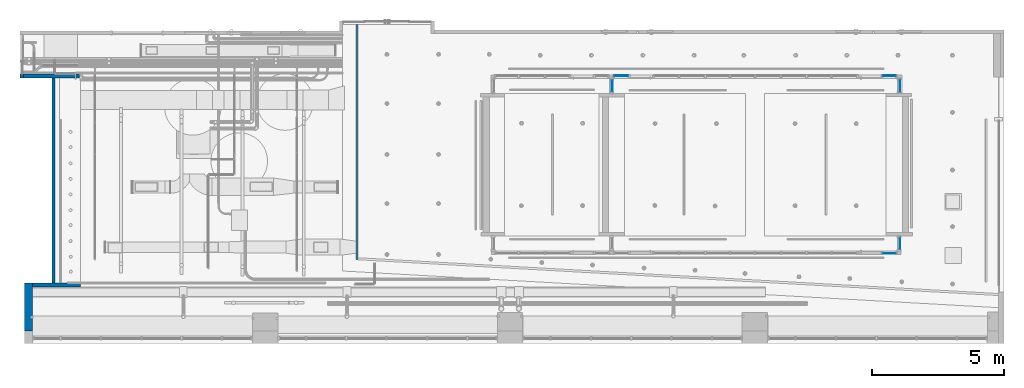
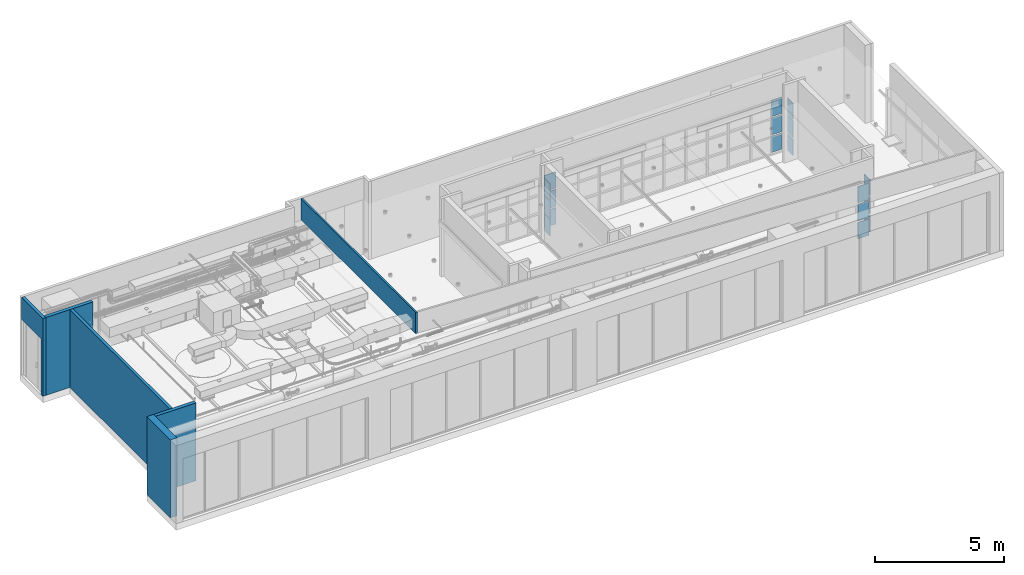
# One storey, part 16 of 108: 18 plates, 6 walls, 1 opening, 5 elements without a shape of their own.
"""IFC4 building model written with IfcOpenShell, lengths in feet."""

from ifc_helpers import new_model, entity, si_unit, converted_unit, derived_unit, direction, frame, frame_2d, origin, origin_2d_with_axis, place, context, subcontext, project, spatial, polyline, rectangle, outline, extrude, shape, source, transform, mapped, material, layer, layer_set, layer_usage, type_object, type_shapes, element, aggregate, save


model = new_model("IFC4")

# Units and contexts
model_context = context("Model", 3, precision=0.0001, world=origin(), true_north=direction((6.12303176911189e-17, 1.0)))
body_context = subcontext(model_context, "Body", "Model", "MODEL_VIEW")
footprint_context = subcontext(model_context, "FootPrint", "Model", "MODEL_VIEW")
ifc_project = project(units=[converted_unit("LENGTHUNIT", "FOOT", entity("IfcRatioMeasure", 0.3048), si_unit("LENGTHUNIT", "METRE"), dimensions=[1, 0, 0, 0, 0, 0, 0]), converted_unit("AREAUNIT", "SQUARE FOOT", entity("IfcRatioMeasure", 0.09290304), si_unit("AREAUNIT", "SQUARE_METRE"), dimensions=[2, 0, 0, 0, 0, 0, 0]), converted_unit("VOLUMEUNIT", "CUBIC FOOT", entity("IfcRatioMeasure", 0.028316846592), si_unit("VOLUMEUNIT", "CUBIC_METRE"), dimensions=[3, 0, 0, 0, 0, 0, 0]), converted_unit("PLANEANGLEUNIT", "DEGREE", entity("IfcRatioMeasure", 0.0174532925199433), si_unit("PLANEANGLEUNIT", "RADIAN"), dimensions=[0, 0, 0, 0, 0, 0, 0]), si_unit("MASSUNIT", "GRAM", prefix="KILO"), derived_unit("MASSDENSITYUNIT", [(si_unit("MASSUNIT", "GRAM", prefix="KILO"), 1), (si_unit("LENGTHUNIT", "METRE"), -3)]), si_unit("TIMEUNIT", "SECOND"), si_unit("FREQUENCYUNIT", "HERTZ"), si_unit("THERMODYNAMICTEMPERATUREUNIT", "DEGREE_CELSIUS"), derived_unit("THERMALTRANSMITTANCEUNIT", [(si_unit("MASSUNIT", "GRAM", prefix="KILO"), 1), (si_unit("THERMODYNAMICTEMPERATUREUNIT", "KELVIN"), -1), (si_unit("TIMEUNIT", "SECOND"), -3)]), derived_unit("VOLUMETRICFLOWRATEUNIT", [(si_unit("LENGTHUNIT", "METRE"), 3), (si_unit("TIMEUNIT", "SECOND"), -1)]), si_unit("ELECTRICCURRENTUNIT", "AMPERE"), si_unit("ELECTRICVOLTAGEUNIT", "VOLT"), si_unit("POWERUNIT", "WATT"), si_unit("FORCEUNIT", "NEWTON"), si_unit("ILLUMINANCEUNIT", "LUX"), si_unit("LUMINOUSFLUXUNIT", "LUMEN"), si_unit("LUMINOUSINTENSITYUNIT", "CANDELA"), derived_unit("USERDEFINED", [(si_unit("MASSUNIT", "GRAM", prefix="KILO"), -1), (si_unit("LENGTHUNIT", "METRE"), -2), (si_unit("TIMEUNIT", "SECOND"), 3), (si_unit("LUMINOUSFLUXUNIT", "LUMEN"), 1)]), derived_unit("LINEARVELOCITYUNIT", [(si_unit("LENGTHUNIT", "METRE"), 1), (si_unit("TIMEUNIT", "SECOND"), -1)]), si_unit("PRESSUREUNIT", "PASCAL"), derived_unit("USERDEFINED", [(si_unit("LENGTHUNIT", "METRE"), -2), (si_unit("MASSUNIT", "GRAM", prefix="KILO"), 1), (si_unit("TIMEUNIT", "SECOND"), -2)])], contexts=[model_context])

# Site, building, storey
site_placement = place(None, origin())
site = spatial("IfcSite", under=ifc_project, at=site_placement, Name="Default", CompositionType="ELEMENT")
building_placement = place(site_placement, origin())
building = spatial("IfcBuilding", under=site, at=building_placement, CompositionType="ELEMENT")
storey_placement = place(building_placement, frame((0.0, 0.0, 168.0)))
storey = spatial("IfcBuildingStorey", under=building, at=storey_placement, Name="Level 15", CompositionType="ELEMENT", Elevation=168.0)

# Curtain wall, plates
curtain_wall_type = type_object("IfcCurtainWallType", Name="Curtain Wall:Storefront 02", PredefinedType="NOTDEFINED")
curtain_wall_1_placement = place(storey_placement, frame((0.0, 0.0, -168.0)))
curtain_wall_1 = element("IfcCurtainWall", 1, at=curtain_wall_1_placement, inside=storey, type_object=curtain_wall_type, Name="Curtain Wall:Storefront 02", ObjectType="Curtain Wall:Storefront 02", PredefinedType="NOTDEFINED")
ifc_material_1 = material(Name="<Unnamed>")
ifc_layer_1 = layer(ifc_material_1, 0.0833333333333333, Name="<Unnamed>")
ifc_layer_set_1 = layer_set([ifc_layer_1], Name="System Panel:Glazed")
ifc_layer_usage_1 = layer_usage(ifc_layer_set_1, "AXIS3", "POSITIVE", 0.104166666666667)
plate_type_1 = type_object("IfcPlateType", Name="Glazed", PredefinedType="CURTAIN_PANEL", material=ifc_layer_set_1)
shared_shape_1 = source(origin(), body_context, "Body", "SweptSolid", [
    extrude(rectangle(XDim=0.0833333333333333, YDim=1.47864472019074, at=frame_2d((-6.93889390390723e-18, 0.0), x_axis=(1.0, 0.0))), frame((0.73932236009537, 0.0416666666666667, 0.0), z_axis=(0.0, 0.0, 1.0), x_axis=(0.0, 1.0, 0.0)), (0.0, 0.0, 1.0), 2.52844160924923),
])
cartesian_point_1 = entity("IfcCartesianPoint", [1.47864472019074, 0.0])
shared_shape_2 = source(frame((-0.73932236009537, 0.0625, 0.0)), footprint_context, "FootPrint", "Curve2D", [
    entity("IfcPolyline", [cartesian_point_1, entity("IfcCartesianPoint", [1.47864472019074, 0.0833333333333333]), entity("IfcCartesianPoint", [0.0, 0.0833333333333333]), entity("IfcCartesianPoint", [0.0, 0.0]), cartesian_point_1]),
])
type_shapes(plate_type_1, [shared_shape_1, shared_shape_2])
plate_1_placement = place(curtain_wall_1_placement, frame((48.9427019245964, -9.98495895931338, 168.208333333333), z_axis=(0.0, 0.0, 1.0), x_axis=(0.0, -1.0, 0.0)))
plate_1 = element("IfcPlate", 2, at=plate_1_placement, type_object=plate_type_1, material=ifc_layer_usage_1, Name="System Panel:Glazed", ObjectType="System Panel:Glazed", PredefinedType="CURTAIN_PANEL", shapes=[
    shape(body_context, "Body", "MappedRepresentation", [mapped(shared_shape_1, transform((0.0, 0.0, 0.0), scale=1.0))]),
    shape(body_context, "Body", "MappedRepresentation", [mapped(shared_shape_2, transform((0.0, 0.0, 0.0), scale=1.0))]),
])
ifc_layer_usage_2 = layer_usage(ifc_layer_set_1, "AXIS3", "POSITIVE", 0.104166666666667)
plate_2_placement = place(curtain_wall_1_placement, frame((48.9427019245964, -9.98495895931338, 173.786049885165), z_axis=(0.0, 0.0, 1.0), x_axis=(0.0, -1.0, 0.0)))
plate_2 = element("IfcPlate", 3, at=plate_2_placement, type_object=plate_type_1, material=ifc_layer_usage_2, Name="System Panel:Glazed", ObjectType="System Panel:Glazed", PredefinedType="CURTAIN_PANEL", shapes=[
    shape(body_context, "Body", "MappedRepresentation", [mapped(shared_shape_1, transform((0.0, 0.0, 0.0), scale=1.0))]),
    shape(body_context, "Body", "MappedRepresentation", [mapped(shared_shape_2, transform((0.0, 0.0, 0.0), scale=1.0))]),
])
ifc_layer_usage_3 = layer_usage(ifc_layer_set_1, "AXIS3", "POSITIVE", 0.104166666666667)
plate_type_2 = type_object("IfcPlateType", Name="Glazed", PredefinedType="CURTAIN_PANEL", material=ifc_layer_set_1)
shared_shape_3 = source(origin(), body_context, "Body", "SweptSolid", [
    extrude(rectangle(XDim=0.0833333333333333, YDim=1.47864472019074, at=frame_2d((-6.93889390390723e-18, 0.0), x_axis=(1.0, 0.0))), frame((0.73932236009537, 0.0416666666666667, 0.0), z_axis=(0.0, 0.0, 1.0), x_axis=(0.0, 1.0, 0.0)), (0.0, 0.0, 1.0), 2.63260827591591),
])
cartesian_point_2 = entity("IfcCartesianPoint", [1.47864472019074, 0.0])
shared_shape_4 = source(frame((-0.73932236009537, 0.0625, 0.0)), footprint_context, "FootPrint", "Curve2D", [
    entity("IfcPolyline", [cartesian_point_2, entity("IfcCartesianPoint", [1.47864472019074, 0.0833333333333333]), entity("IfcCartesianPoint", [0.0, 0.0833333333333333]), entity("IfcCartesianPoint", [0.0, 0.0]), cartesian_point_2]),
])
type_shapes(plate_type_2, [shared_shape_3, shared_shape_4])
plate_3_placement = place(curtain_wall_1_placement, frame((48.9427019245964, -9.98495895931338, 170.945108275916), z_axis=(0.0, 0.0, 1.0), x_axis=(0.0, -1.0, 0.0)))
plate_3 = element("IfcPlate", 4, at=plate_3_placement, type_object=plate_type_2, material=ifc_layer_usage_3, Name="System Panel:Glazed", ObjectType="System Panel:Glazed", PredefinedType="CURTAIN_PANEL", shapes=[
    shape(body_context, "Body", "MappedRepresentation", [mapped(shared_shape_3, transform((0.0, 0.0, 0.0), scale=1.0))]),
    shape(body_context, "Body", "MappedRepresentation", [mapped(shared_shape_4, transform((0.0, 0.0, 0.0), scale=1.0))]),
])
aggregate(curtain_wall_1, [plate_1, plate_3, plate_2])

curtain_wall_2_placement = place(storey_placement, frame((0.0, 0.0, -168.0)))
curtain_wall_2 = element("IfcCurtainWall", 5, at=curtain_wall_2_placement, inside=storey, type_object=curtain_wall_type, Name="Curtain Wall:Storefront 02", ObjectType="Curtain Wall:Storefront 02", PredefinedType="NOTDEFINED")
ifc_layer_usage_4 = layer_usage(ifc_layer_set_1, "AXIS3", "POSITIVE", 0.104166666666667)
plate_type_3 = type_object("IfcPlateType", Name="Glazed", PredefinedType="CURTAIN_PANEL", material=ifc_layer_set_1)
shared_shape_5 = source(origin(), body_context, "Body", "SweptSolid", [
    extrude(rectangle(XDim=0.0833333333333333, YDim=1.60416666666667, at=frame_2d((-6.93889390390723e-18, 5.55111512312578e-17), x_axis=(1.0, 0.0))), frame((0.802083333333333, 0.0416666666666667, 0.0), z_axis=(0.0, 0.0, 1.0), x_axis=(0.0, 1.0, 0.0)), (0.0, 0.0, 1.0), 2.52844160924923),
])
cartesian_point_3 = entity("IfcCartesianPoint", [1.60416666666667, 0.0])
shared_shape_6 = source(frame((-0.802083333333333, 0.0625, 0.0)), footprint_context, "FootPrint", "Curve2D", [
    entity("IfcPolyline", [cartesian_point_3, entity("IfcCartesianPoint", [1.60416666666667, 0.0833333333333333]), entity("IfcCartesianPoint", [0.0, 0.0833333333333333]), entity("IfcCartesianPoint", [0.0, 0.0]), cartesian_point_3]),
])
type_shapes(plate_type_3, [shared_shape_5, shared_shape_6])
plate_4_placement = place(curtain_wall_2_placement, frame((48.4635352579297, -11.9427703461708, 168.208333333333), z_axis=(0.0, 0.0, 1.0), x_axis=(-1.0, 0.0, 0.0)))
plate_4 = element("IfcPlate", 6, at=plate_4_placement, type_object=plate_type_3, material=ifc_layer_usage_4, Name="System Panel:Glazed", ObjectType="System Panel:Glazed", PredefinedType="CURTAIN_PANEL", shapes=[
    shape(body_context, "Body", "MappedRepresentation", [mapped(shared_shape_5, transform((0.0, 0.0, 0.0), scale=1.0))]),
    shape(body_context, "Body", "MappedRepresentation", [mapped(shared_shape_6, transform((0.0, 0.0, 0.0), scale=1.0))]),
])
ifc_layer_usage_5 = layer_usage(ifc_layer_set_1, "AXIS3", "POSITIVE", 0.104166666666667)
plate_5_placement = place(curtain_wall_2_placement, frame((48.4635352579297, -11.9427703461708, 173.786049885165), z_axis=(0.0, 0.0, 1.0), x_axis=(-1.0, 0.0, 0.0)))
plate_5 = element("IfcPlate", 7, at=plate_5_placement, type_object=plate_type_3, material=ifc_layer_usage_5, Name="System Panel:Glazed", ObjectType="System Panel:Glazed", PredefinedType="CURTAIN_PANEL", shapes=[
    shape(body_context, "Body", "MappedRepresentation", [mapped(shared_shape_5, transform((0.0, 0.0, 0.0), scale=1.0))]),
    shape(body_context, "Body", "MappedRepresentation", [mapped(shared_shape_6, transform((0.0, 0.0, 0.0), scale=1.0))]),
])
ifc_layer_usage_6 = layer_usage(ifc_layer_set_1, "AXIS3", "POSITIVE", 0.104166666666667)
plate_type_4 = type_object("IfcPlateType", Name="Glazed", PredefinedType="CURTAIN_PANEL", material=ifc_layer_set_1)
shared_shape_7 = source(origin(), body_context, "Body", "SweptSolid", [
    extrude(rectangle(XDim=0.0833333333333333, YDim=1.60416666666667, at=frame_2d((-6.93889390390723e-18, 5.55111512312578e-17), x_axis=(1.0, 0.0))), frame((0.802083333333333, 0.0416666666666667, 0.0), z_axis=(0.0, 0.0, 1.0), x_axis=(0.0, 1.0, 0.0)), (0.0, 0.0, 1.0), 2.63260827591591),
])
cartesian_point_4 = entity("IfcCartesianPoint", [1.60416666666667, 0.0])
shared_shape_8 = source(frame((-0.802083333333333, 0.0625, 0.0)), footprint_context, "FootPrint", "Curve2D", [
    entity("IfcPolyline", [cartesian_point_4, entity("IfcCartesianPoint", [1.60416666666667, 0.0833333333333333]), entity("IfcCartesianPoint", [0.0, 0.0833333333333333]), entity("IfcCartesianPoint", [0.0, 0.0]), cartesian_point_4]),
])
type_shapes(plate_type_4, [shared_shape_7, shared_shape_8])
plate_6_placement = place(curtain_wall_2_placement, frame((48.4635352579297, -11.9427703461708, 170.945108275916), z_axis=(0.0, 0.0, 1.0), x_axis=(-1.0, 0.0, 0.0)))
plate_6 = element("IfcPlate", 8, at=plate_6_placement, type_object=plate_type_4, material=ifc_layer_usage_6, Name="System Panel:Glazed", ObjectType="System Panel:Glazed", PredefinedType="CURTAIN_PANEL", shapes=[
    shape(body_context, "Body", "MappedRepresentation", [mapped(shared_shape_7, transform((0.0, 0.0, 0.0), scale=1.0))]),
    shape(body_context, "Body", "MappedRepresentation", [mapped(shared_shape_8, transform((0.0, 0.0, 0.0), scale=1.0))]),
])
aggregate(curtain_wall_2, [plate_4, plate_6, plate_5])

curtain_wall_3_placement = place(storey_placement, frame((0.0, 0.0, -168.0)))
curtain_wall_3 = element("IfcCurtainWall", 9, at=curtain_wall_3_placement, inside=storey, type_object=curtain_wall_type, Name="Curtain Wall:Storefront 02", ObjectType="Curtain Wall:Storefront 02", PredefinedType="NOTDEFINED")
ifc_layer_usage_7 = layer_usage(ifc_layer_set_1, "AXIS3", "POSITIVE", 0.104166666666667)
plate_type_5 = type_object("IfcPlateType", Name="Glazed", PredefinedType="CURTAIN_PANEL", material=ifc_layer_set_1)
shared_shape_9 = source(origin(), body_context, "Body", "SweptSolid", [
    extrude(rectangle(XDim=0.0833333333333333, YDim=1.45246849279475, at=origin_2d_with_axis()), frame((0.726234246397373, 0.0416666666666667, 0.0), z_axis=(0.0, 0.0, 1.0), x_axis=(0.0, 1.0, 0.0)), (0.0, 0.0, 1.0), 2.52844160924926),
])
cartesian_point_5 = entity("IfcCartesianPoint", [1.45246849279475, 0.0])
shared_shape_10 = source(frame((-0.726234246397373, -0.145833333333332, 0.0)), footprint_context, "FootPrint", "Curve2D", [
    entity("IfcPolyline", [cartesian_point_5, entity("IfcCartesianPoint", [1.45246849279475, 0.0833333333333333]), entity("IfcCartesianPoint", [0.0, 0.0833333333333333]), entity("IfcCartesianPoint", [0.0, 0.0]), cartesian_point_5]),
])
type_shapes(plate_type_5, [shared_shape_9, shared_shape_10])
plate_7_placement = place(curtain_wall_3_placement, frame((49.0260352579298, 8.09151443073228, 168.208333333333), z_axis=(0.0, 0.0, 1.0), x_axis=(0.0, 1.0, 0.0)))
plate_7 = element("IfcPlate", 10, at=plate_7_placement, type_object=plate_type_5, material=ifc_layer_usage_7, Name="System Panel:Glazed", ObjectType="System Panel:Glazed", PredefinedType="CURTAIN_PANEL", shapes=[
    shape(body_context, "Body", "MappedRepresentation", [mapped(shared_shape_9, transform((0.0, 0.0, 0.0), scale=1.0))]),
    shape(body_context, "Body", "MappedRepresentation", [mapped(shared_shape_10, transform((0.0, 0.0, 0.0), scale=1.0))]),
])
ifc_layer_usage_8 = layer_usage(ifc_layer_set_1, "AXIS3", "POSITIVE", 0.104166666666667)
plate_8_placement = place(curtain_wall_3_placement, frame((49.0260352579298, 8.09151443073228, 173.786049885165), z_axis=(0.0, 0.0, 1.0), x_axis=(0.0, 1.0, 0.0)))
plate_8 = element("IfcPlate", 11, at=plate_8_placement, type_object=plate_type_5, material=ifc_layer_usage_8, Name="System Panel:Glazed", ObjectType="System Panel:Glazed", PredefinedType="CURTAIN_PANEL", shapes=[
    shape(body_context, "Body", "MappedRepresentation", [mapped(shared_shape_9, transform((0.0, 0.0, 0.0), scale=1.0))]),
    shape(body_context, "Body", "MappedRepresentation", [mapped(shared_shape_10, transform((0.0, 0.0, 0.0), scale=1.0))]),
])
ifc_layer_usage_9 = layer_usage(ifc_layer_set_1, "AXIS3", "POSITIVE", 0.104166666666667)
plate_type_6 = type_object("IfcPlateType", Name="Glazed", PredefinedType="CURTAIN_PANEL", material=ifc_layer_set_1)
shared_shape_11 = source(origin(), body_context, "Body", "SweptSolid", [
    extrude(rectangle(XDim=0.0833333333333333, YDim=1.45246849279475, at=origin_2d_with_axis()), frame((0.726234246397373, 0.0416666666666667, 0.0), z_axis=(0.0, 0.0, 1.0), x_axis=(0.0, 1.0, 0.0)), (0.0, 0.0, 1.0), 2.63260827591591),
])
cartesian_point_6 = entity("IfcCartesianPoint", [1.45246849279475, 0.0])
shared_shape_12 = source(frame((-0.726234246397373, -0.145833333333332, 0.0)), footprint_context, "FootPrint", "Curve2D", [
    entity("IfcPolyline", [cartesian_point_6, entity("IfcCartesianPoint", [1.45246849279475, 0.0833333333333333]), entity("IfcCartesianPoint", [0.0, 0.0833333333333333]), entity("IfcCartesianPoint", [0.0, 0.0]), cartesian_point_6]),
])
type_shapes(plate_type_6, [shared_shape_11, shared_shape_12])
plate_9_placement = place(curtain_wall_3_placement, frame((49.0260352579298, 8.09151443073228, 170.945108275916), z_axis=(0.0, 0.0, 1.0), x_axis=(0.0, 1.0, 0.0)))
plate_9 = element("IfcPlate", 12, at=plate_9_placement, type_object=plate_type_6, material=ifc_layer_usage_9, Name="System Panel:Glazed", ObjectType="System Panel:Glazed", PredefinedType="CURTAIN_PANEL", shapes=[
    shape(body_context, "Body", "MappedRepresentation", [mapped(shared_shape_11, transform((0.0, 0.0, 0.0), scale=1.0))]),
    shape(body_context, "Body", "MappedRepresentation", [mapped(shared_shape_12, transform((0.0, 0.0, 0.0), scale=1.0))]),
])
aggregate(curtain_wall_3, [plate_7, plate_9, plate_8])

curtain_wall_4_placement = place(storey_placement, frame((0.0, 0.0, -168.0)))
curtain_wall_4 = element("IfcCurtainWall", 13, at=curtain_wall_4_placement, inside=storey, type_object=curtain_wall_type, Name="Curtain Wall:Storefront 02", ObjectType="Curtain Wall:Storefront 02", PredefinedType="NOTDEFINED")
ifc_layer_usage_10 = layer_usage(ifc_layer_set_1, "AXIS3", "POSITIVE", 0.104166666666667)
plate_type_7 = type_object("IfcPlateType", Name="Glazed", PredefinedType="CURTAIN_PANEL", material=ifc_layer_set_1)
shared_shape_13 = source(origin(), body_context, "Body", "SweptSolid", [
    extrude(rectangle(XDim=0.0833333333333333, YDim=1.60416666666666, at=frame_2d((0.0, -5.55111512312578e-17), x_axis=(1.0, 0.0))), frame((0.802083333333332, 0.0416666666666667, 0.0), z_axis=(0.0, 0.0, 1.0), x_axis=(0.0, 1.0, 0.0)), (0.0, 0.0, 1.0), 2.52844160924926),
])
cartesian_point_7 = entity("IfcCartesianPoint", [1.60416666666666, 0.0])
shared_shape_14 = source(frame((-0.802083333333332, -0.145833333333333, 0.0)), footprint_context, "FootPrint", "Curve2D", [
    entity("IfcPolyline", [cartesian_point_7, entity("IfcCartesianPoint", [1.60416666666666, 0.0833333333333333]), entity("IfcCartesianPoint", [0.0, 0.0833333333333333]), entity("IfcCartesianPoint", [0.0, 0.0]), cartesian_point_7]),
])
type_shapes(plate_type_7, [shared_shape_13, shared_shape_14])
plate_10_placement = place(curtain_wall_4_placement, frame((48.4635352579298, 10.106482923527, 168.208333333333), z_axis=(0.0, 0.0, 1.0), x_axis=(-1.0, 0.0, 0.0)))
plate_10 = element("IfcPlate", 14, at=plate_10_placement, type_object=plate_type_7, material=ifc_layer_usage_10, Name="System Panel:Glazed", ObjectType="System Panel:Glazed", PredefinedType="CURTAIN_PANEL", shapes=[
    shape(body_context, "Body", "MappedRepresentation", [mapped(shared_shape_13, transform((0.0, 0.0, 0.0), scale=1.0))]),
    shape(body_context, "Body", "MappedRepresentation", [mapped(shared_shape_14, transform((0.0, 0.0, 0.0), scale=1.0))]),
])
ifc_layer_usage_11 = layer_usage(ifc_layer_set_1, "AXIS3", "POSITIVE", 0.104166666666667)
plate_11_placement = place(curtain_wall_4_placement, frame((48.4635352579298, 10.106482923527, 173.786049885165), z_axis=(0.0, 0.0, 1.0), x_axis=(-1.0, 0.0, 0.0)))
plate_11 = element("IfcPlate", 15, at=plate_11_placement, type_object=plate_type_7, material=ifc_layer_usage_11, Name="System Panel:Glazed", ObjectType="System Panel:Glazed", PredefinedType="CURTAIN_PANEL", shapes=[
    shape(body_context, "Body", "MappedRepresentation", [mapped(shared_shape_13, transform((0.0, 0.0, 0.0), scale=1.0))]),
    shape(body_context, "Body", "MappedRepresentation", [mapped(shared_shape_14, transform((0.0, 0.0, 0.0), scale=1.0))]),
])
ifc_layer_usage_12 = layer_usage(ifc_layer_set_1, "AXIS3", "POSITIVE", 0.104166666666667)
plate_type_8 = type_object("IfcPlateType", Name="Glazed", PredefinedType="CURTAIN_PANEL", material=ifc_layer_set_1)
shared_shape_15 = source(origin(), body_context, "Body", "SweptSolid", [
    extrude(rectangle(XDim=0.0833333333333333, YDim=1.73543470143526, at=origin_2d_with_axis()), frame((0.86771735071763, 0.0416666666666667, 0.0), z_axis=(0.0, 0.0, 1.0), x_axis=(0.0, 1.0, 0.0)), (0.0, 0.0, 1.0), 2.52844160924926),
])
cartesian_point_8 = entity("IfcCartesianPoint", [1.73543470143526, 0.0])
shared_shape_16 = source(frame((-0.867717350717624, -0.145833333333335, 0.0)), footprint_context, "FootPrint", "Curve2D", [
    entity("IfcPolyline", [cartesian_point_8, entity("IfcCartesianPoint", [1.73543470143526, 0.0833333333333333]), entity("IfcCartesianPoint", [0.0, 0.0833333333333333]), entity("IfcCartesianPoint", [0.0, 0.0]), cartesian_point_8]),
])
type_shapes(plate_type_8, [shared_shape_15, shared_shape_16])
plate_12_placement = place(curtain_wall_4_placement, frame((15.3178706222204, 10.1064829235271, 168.208333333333), z_axis=(0.0, 0.0, 1.0), x_axis=(-1.0, 0.0, 0.0)))
plate_12 = element("IfcPlate", 16, at=plate_12_placement, type_object=plate_type_8, material=ifc_layer_usage_12, Name="System Panel:Glazed", ObjectType="System Panel:Glazed", PredefinedType="CURTAIN_PANEL", shapes=[
    shape(body_context, "Body", "MappedRepresentation", [mapped(shared_shape_15, transform((0.0, 0.0, 0.0), scale=1.0))]),
    shape(body_context, "Body", "MappedRepresentation", [mapped(shared_shape_16, transform((0.0, 0.0, 0.0), scale=1.0))]),
])
ifc_layer_usage_13 = layer_usage(ifc_layer_set_1, "AXIS3", "POSITIVE", 0.104166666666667)
plate_13_placement = place(curtain_wall_4_placement, frame((15.3178706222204, 10.1064829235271, 173.786049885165), z_axis=(0.0, 0.0, 1.0), x_axis=(-1.0, 0.0, 0.0)))
plate_13 = element("IfcPlate", 17, at=plate_13_placement, type_object=plate_type_8, material=ifc_layer_usage_13, Name="System Panel:Glazed", ObjectType="System Panel:Glazed", PredefinedType="CURTAIN_PANEL", shapes=[
    shape(body_context, "Body", "MappedRepresentation", [mapped(shared_shape_15, transform((0.0, 0.0, 0.0), scale=1.0))]),
    shape(body_context, "Body", "MappedRepresentation", [mapped(shared_shape_16, transform((0.0, 0.0, 0.0), scale=1.0))]),
])
ifc_layer_usage_14 = layer_usage(ifc_layer_set_1, "AXIS3", "POSITIVE", 0.104166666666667)
plate_type_9 = type_object("IfcPlateType", Name="Glazed", PredefinedType="CURTAIN_PANEL", material=ifc_layer_set_1)
shared_shape_17 = source(origin(), body_context, "Body", "SweptSolid", [
    extrude(rectangle(XDim=0.0833333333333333, YDim=1.60416666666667, at=origin_2d_with_axis()), frame((0.802083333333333, 0.0416666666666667, 0.0), z_axis=(0.0, 0.0, 1.0), x_axis=(0.0, 1.0, 0.0)), (0.0, 0.0, 1.0), 2.63260827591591),
])
cartesian_point_9 = entity("IfcCartesianPoint", [1.60416666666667, 0.0])
shared_shape_18 = source(frame((-0.802083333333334, -0.145833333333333, 0.0)), footprint_context, "FootPrint", "Curve2D", [
    entity("IfcPolyline", [cartesian_point_9, entity("IfcCartesianPoint", [1.60416666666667, 0.0833333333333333]), entity("IfcCartesianPoint", [0.0, 0.0833333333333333]), entity("IfcCartesianPoint", [0.0, 0.0]), cartesian_point_9]),
])
type_shapes(plate_type_9, [shared_shape_17, shared_shape_18])
plate_14_placement = place(curtain_wall_4_placement, frame((48.4635352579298, 10.106482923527, 170.945108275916), z_axis=(0.0, 0.0, 1.0), x_axis=(-1.0, 0.0, 0.0)))
plate_14 = element("IfcPlate", 18, at=plate_14_placement, type_object=plate_type_9, material=ifc_layer_usage_14, Name="System Panel:Glazed", ObjectType="System Panel:Glazed", PredefinedType="CURTAIN_PANEL", shapes=[
    shape(body_context, "Body", "MappedRepresentation", [mapped(shared_shape_17, transform((0.0, 0.0, 0.0), scale=1.0))]),
    shape(body_context, "Body", "MappedRepresentation", [mapped(shared_shape_18, transform((0.0, 0.0, 0.0), scale=1.0))]),
])
ifc_layer_usage_15 = layer_usage(ifc_layer_set_1, "AXIS3", "POSITIVE", 0.104166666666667)
plate_type_10 = type_object("IfcPlateType", Name="Glazed", PredefinedType="CURTAIN_PANEL", material=ifc_layer_set_1)
shared_shape_19 = source(origin(), body_context, "Body", "SweptSolid", [
    extrude(rectangle(XDim=0.0833333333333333, YDim=1.73543470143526, at=origin_2d_with_axis()), frame((0.86771735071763, 0.0416666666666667, 0.0), z_axis=(0.0, 0.0, 1.0), x_axis=(0.0, 1.0, 0.0)), (0.0, 0.0, 1.0), 2.63260827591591),
])
cartesian_point_10 = entity("IfcCartesianPoint", [1.73543470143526, 0.0])
shared_shape_20 = source(frame((-0.867717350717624, -0.145833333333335, 0.0)), footprint_context, "FootPrint", "Curve2D", [
    entity("IfcPolyline", [cartesian_point_10, entity("IfcCartesianPoint", [1.73543470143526, 0.0833333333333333]), entity("IfcCartesianPoint", [0.0, 0.0833333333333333]), entity("IfcCartesianPoint", [0.0, 0.0]), cartesian_point_10]),
])
type_shapes(plate_type_10, [shared_shape_19, shared_shape_20])
plate_15_placement = place(curtain_wall_4_placement, frame((15.3178706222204, 10.1064829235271, 170.945108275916), z_axis=(0.0, 0.0, 1.0), x_axis=(-1.0, 0.0, 0.0)))
plate_15 = element("IfcPlate", 19, at=plate_15_placement, type_object=plate_type_10, material=ifc_layer_usage_15, Name="System Panel:Glazed", ObjectType="System Panel:Glazed", PredefinedType="CURTAIN_PANEL", shapes=[
    shape(body_context, "Body", "MappedRepresentation", [mapped(shared_shape_19, transform((0.0, 0.0, 0.0), scale=1.0))]),
    shape(body_context, "Body", "MappedRepresentation", [mapped(shared_shape_20, transform((0.0, 0.0, 0.0), scale=1.0))]),
])
aggregate(curtain_wall_4, [plate_10, plate_12, plate_14, plate_15, plate_11, plate_13])

curtain_wall_5_placement = place(storey_placement, frame((0.0, 0.0, -168.0)))
curtain_wall_5 = element("IfcCurtainWall", 20, at=curtain_wall_5_placement, inside=storey, type_object=curtain_wall_type, Name="Curtain Wall:Storefront 02", ObjectType="Curtain Wall:Storefront 02", PredefinedType="NOTDEFINED")
ifc_layer_usage_16 = layer_usage(ifc_layer_set_1, "AXIS3", "POSITIVE", 0.104166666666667)
plate_type_11 = type_object("IfcPlateType", Name="Glazed", PredefinedType="CURTAIN_PANEL", material=ifc_layer_set_1)
shared_shape_21 = source(origin(), body_context, "Body", "SweptSolid", [
    extrude(rectangle(XDim=0.0833333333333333, YDim=1.41666666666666, at=frame_2d((6.93889390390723e-18, 0.0), x_axis=(1.0, 0.0))), frame((0.708333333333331, 0.0416666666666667, 0.0), z_axis=(0.0, 0.0, 1.0), x_axis=(0.0, 1.0, 0.0)), (0.0, 0.0, 1.0), 2.52844160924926),
])
cartesian_point_11 = entity("IfcCartesianPoint", [1.41666666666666, 0.0])
shared_shape_22 = source(frame((-0.70833333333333, -0.145833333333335, 0.0)), footprint_context, "FootPrint", "Curve2D", [
    entity("IfcPolyline", [cartesian_point_11, entity("IfcCartesianPoint", [1.41666666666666, 0.0833333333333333]), entity("IfcCartesianPoint", [0.0, 0.0833333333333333]), entity("IfcCartesianPoint", [0.0, 0.0]), cartesian_point_11]),
])
type_shapes(plate_type_11, [shared_shape_21, shared_shape_22])
plate_16_placement = place(curtain_wall_5_placement, frame((13.3595372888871, 8.06498029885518, 168.208333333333), z_axis=(0.0, 0.0, 1.0), x_axis=(0.0, 1.0, 0.0)))
plate_16 = element("IfcPlate", 21, at=plate_16_placement, type_object=plate_type_11, material=ifc_layer_usage_16, Name="System Panel:Glazed", ObjectType="System Panel:Glazed", PredefinedType="CURTAIN_PANEL", shapes=[
    shape(body_context, "Body", "MappedRepresentation", [mapped(shared_shape_21, transform((0.0, 0.0, 0.0), scale=1.0))]),
    shape(body_context, "Body", "MappedRepresentation", [mapped(shared_shape_22, transform((0.0, 0.0, 0.0), scale=1.0))]),
])
ifc_layer_usage_17 = layer_usage(ifc_layer_set_1, "AXIS3", "POSITIVE", 0.104166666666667)
plate_17_placement = place(curtain_wall_5_placement, frame((13.3595372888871, 8.06498029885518, 173.786049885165), z_axis=(0.0, 0.0, 1.0), x_axis=(0.0, 1.0, 0.0)))
plate_17 = element("IfcPlate", 22, at=plate_17_placement, type_object=plate_type_11, material=ifc_layer_usage_17, Name="System Panel:Glazed", ObjectType="System Panel:Glazed", PredefinedType="CURTAIN_PANEL", shapes=[
    shape(body_context, "Body", "MappedRepresentation", [mapped(shared_shape_21, transform((0.0, 0.0, 0.0), scale=1.0))]),
    shape(body_context, "Body", "MappedRepresentation", [mapped(shared_shape_22, transform((0.0, 0.0, 0.0), scale=1.0))]),
])
ifc_layer_usage_18 = layer_usage(ifc_layer_set_1, "AXIS3", "POSITIVE", 0.104166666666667)
plate_type_12 = type_object("IfcPlateType", Name="Glazed", PredefinedType="CURTAIN_PANEL", material=ifc_layer_set_1)
shared_shape_23 = source(origin(), body_context, "Body", "SweptSolid", [
    extrude(rectangle(XDim=0.0833333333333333, YDim=1.41666666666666, at=frame_2d((6.93889390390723e-18, 0.0), x_axis=(1.0, 0.0))), frame((0.708333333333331, 0.0416666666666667, 0.0), z_axis=(0.0, 0.0, 1.0), x_axis=(0.0, 1.0, 0.0)), (0.0, 0.0, 1.0), 2.63260827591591),
])
cartesian_point_12 = entity("IfcCartesianPoint", [1.41666666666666, 0.0])
shared_shape_24 = source(frame((-0.70833333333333, -0.145833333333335, 0.0)), footprint_context, "FootPrint", "Curve2D", [
    entity("IfcPolyline", [cartesian_point_12, entity("IfcCartesianPoint", [1.41666666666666, 0.0833333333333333]), entity("IfcCartesianPoint", [0.0, 0.0833333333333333]), entity("IfcCartesianPoint", [0.0, 0.0]), cartesian_point_12]),
])
type_shapes(plate_type_12, [shared_shape_23, shared_shape_24])
plate_18_placement = place(curtain_wall_5_placement, frame((13.3595372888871, 8.06498029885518, 170.945108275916), z_axis=(0.0, 0.0, 1.0), x_axis=(0.0, 1.0, 0.0)))
plate_18 = element("IfcPlate", 23, at=plate_18_placement, type_object=plate_type_12, material=ifc_layer_usage_18, Name="System Panel:Glazed", ObjectType="System Panel:Glazed", PredefinedType="CURTAIN_PANEL", shapes=[
    shape(body_context, "Body", "MappedRepresentation", [mapped(shared_shape_23, transform((0.0, 0.0, 0.0), scale=1.0))]),
    shape(body_context, "Body", "MappedRepresentation", [mapped(shared_shape_24, transform((0.0, 0.0, 0.0), scale=1.0))]),
])
aggregate(curtain_wall_5, [plate_16, plate_18, plate_17])

# Wall, opening
ifc_material_2 = material(Name="Default Wall", Category="Miscellaneous")
ifc_layer_2 = layer(ifc_material_2, 0.416666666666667, Name="Default Wall", Category="Miscellaneous")
ifc_layer_set_2 = layer_set([ifc_layer_2], Name="Basic Wall:Generic - 5\"")
ifc_layer_usage_19 = layer_usage(ifc_layer_set_2, "AXIS2", "POSITIVE", -0.208333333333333)
wall_type_1 = type_object("IfcWallType", Name="Basic Wall:Generic - 5\"", PredefinedType="NOTDEFINED", material=ifc_layer_set_2)
wall_1_placement = place(storey_placement, frame((-59.8798400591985, 9.79535777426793, 0.0), z_axis=(0.0, 0.0, 1.0), x_axis=(0.0, 1.0, 0.0)))
wall_1 = element("IfcWall", 24, at=wall_1_placement, inside=storey, type_object=wall_type_1, material=ifc_layer_usage_19, Name="Basic Wall:Generic - 5\"", ObjectType="Basic Wall:Generic - 5\"", PredefinedType="NOTDEFINED", context=body_context, shape_type="SweptSolid", body=[
    extrude(rectangle(XDim=5.40625000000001, YDim=0.416666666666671, at=frame_2d((2.703125, 1.38777878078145e-16), x_axis=(-1.0, 0.0))), origin(), (0.0, 0.0, 1.0), 12.0833333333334),
])
opening_placement = place(wall_1_placement, frame((0.499999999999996, 0.708333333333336, 0.0)))
element("IfcOpeningElement", 25, at=opening_placement, cuts=wall_1, Name="Basic Wall:Generic - 5\"", ObjectType="Opening", PredefinedType="OPENING", context=body_context, shape_type="SweptSolid", body=[
    extrude(rectangle(XDim=8.66397850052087, YDim=4.90625, at=frame_2d((0.0, 1.4210854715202e-14), x_axis=(0.0, 1.0))), frame((2.453125, -1.41666666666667, 4.33198925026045), z_axis=(0.0, 1.0, 0.0), x_axis=(-1.0, 0.0, 0.0)), (0.0, 0.0, 1.0), 1.41666666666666),
])

# Walls
ifc_layer_usage_20 = layer_usage(ifc_layer_set_2, "AXIS2", "POSITIVE", -0.208333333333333)
wall_2_placement = place(storey_placement, frame((-55.9336644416, -15.6092556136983, 0.0), z_axis=(0.0, 0.0, 1.0), x_axis=(0.0, 1.0, 0.0)))
element("IfcWall", 26, at=wall_2_placement, inside=storey, type_object=wall_type_1, material=ifc_layer_usage_20, Name="Basic Wall:Generic - 5\"", ObjectType="Basic Wall:Generic - 5\"", PredefinedType="NOTDEFINED", context=body_context, shape_type="SweptSolid", body=[
    extrude(rectangle(XDim=25.4046133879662, YDim=0.416666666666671, at=frame_2d((12.7023066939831, 1.0547118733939e-15), x_axis=(-1.0, 0.0))), origin(), (0.0, 0.0, 1.0), 12.0833333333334),
])
ifc_layer_3 = layer(ifc_material_2, 1.0, Name="Default Wall", Category="Miscellaneous")
ifc_layer_set_3 = layer_set([ifc_layer_3], Name="Basic Wall:Generic - 12\"")
ifc_layer_usage_21 = layer_usage(ifc_layer_set_3, "AXIS2", "POSITIVE", -0.5)
wall_type_2 = type_object("IfcWallType", Name="Basic Wall:Generic - 12\"", PredefinedType="NOTDEFINED", material=ifc_layer_set_3)
wall_3_placement = place(storey_placement, frame((-59.0256156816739, -21.5991023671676, 0.0), z_axis=(0.0, 0.0, 1.0), x_axis=(0.0, 1.0, 0.0)))
element("IfcWall", 27, at=wall_3_placement, inside=storey, type_object=wall_type_2, material=ifc_layer_usage_21, Name="Basic Wall:Generic - 12\"", ObjectType="Basic Wall:Generic - 12\"", PredefinedType="NOTDEFINED", context=body_context, shape_type="SweptSolid", body=[
    extrude(rectangle(XDim=5.98984675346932, YDim=1.0, at=frame_2d((2.99492337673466, 5.55111512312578e-17), x_axis=(-1.0, 0.0))), origin(), (0.0, 0.0, 1.0), 12.0833333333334),
])
ifc_layer_4 = layer(ifc_material_2, 0.5, Name="Default Wall", Category="Miscellaneous")
ifc_layer_set_4 = layer_set([ifc_layer_4], Name="Basic Wall:Generic - 6\"")
ifc_layer_usage_22 = layer_usage(ifc_layer_set_4, "AXIS2", "NEGATIVE", 0.25)
wall_type_3 = type_object("IfcWallType", Name="Basic Wall:Generic - 6\"", PredefinedType="NOTDEFINED", material=ifc_layer_set_4)
wall_4_placement = place(storey_placement, frame((-59.6715067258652, 10.0453577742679, 0.0)))
element("IfcWall", 28, at=wall_4_placement, inside=storey, type_object=wall_type_3, material=ifc_layer_usage_22, Name="Basic Wall:Generic - 6\"", ObjectType="Basic Wall:Generic - 6\"", PredefinedType="NOTDEFINED", context=body_context, shape_type="SweptSolid", body=[
    extrude(rectangle(XDim=6.93166058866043, YDim=0.5, at=frame_2d((3.46583029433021, -3.46944695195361e-16), x_axis=(-1.0, 0.0))), origin(), (0.0, 0.0, 1.0), 12.0833333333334),
])
ifc_layer_usage_23 = layer_usage(ifc_layer_set_4, "AXIS2", "POSITIVE", -0.25)
wall_5_placement = place(storey_placement, frame((-58.5256156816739, -15.8592556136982, 0.0)))
element("IfcWall", 29, at=wall_5_placement, inside=storey, type_object=wall_type_3, material=ifc_layer_usage_23, Name="Basic Wall:Generic - 6\"", ObjectType="Basic Wall:Generic - 6\"", PredefinedType="NOTDEFINED", context=body_context, shape_type="SweptSolid", body=[
    extrude(rectangle(XDim=5.94758671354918, YDim=0.5, at=frame_2d((2.97379335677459, 2.77555756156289e-16), x_axis=(-1.0, 0.0))), origin(), (0.0, 0.0, 1.0), 12.0833333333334),
])
ifc_layer_5 = layer(ifc_material_2, 0.25, Name="Default Wall", Category="Miscellaneous")
ifc_layer_set_5 = layer_set([ifc_layer_5], Name="Basic Wall:Generic - 3\"")
ifc_layer_usage_24 = layer_usage(ifc_layer_set_5, "AXIS2", "POSITIVE", -0.125)
wall_type_4 = type_object("IfcWallType", Name="Basic Wall:Generic - 3\"", PredefinedType="NOTDEFINED", material=ifc_layer_set_5)
wall_6_placement = place(storey_placement, frame((-18.2965067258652, 16.4334256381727, 8.80208333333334), z_axis=(0.0, 0.0, 1.0), x_axis=(0.0, -1.0, 0.0)))
element("IfcWall", 30, at=wall_6_placement, inside=storey, type_object=wall_type_4, material=ifc_layer_usage_24, Name="Basic Wall:Generic - 3\"", ObjectType="Basic Wall:Generic - 3\"", PredefinedType="NOTDEFINED", context=body_context, shape_type="SweptSolid", body=[
    extrude(outline(polyline([(29.162403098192, -0.124999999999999), (29.1763766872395, 0.125000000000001), (28.9259864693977, 0.125000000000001), (0.0, 0.125), (0.0, -0.125), (29.162403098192, -0.124999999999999)])), origin(), (0.0, 0.0, 1.0), 3.28125),
])

save(model, "model.ifc")
